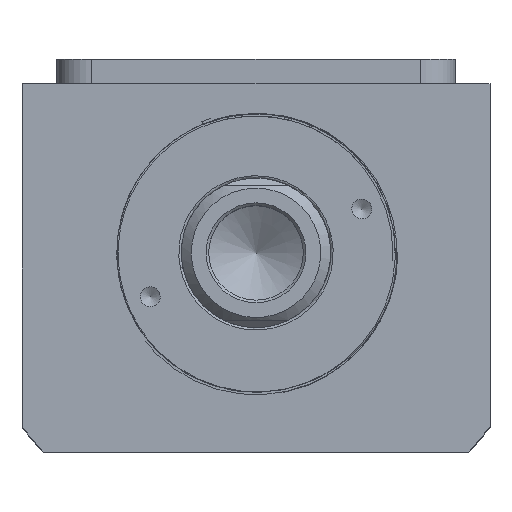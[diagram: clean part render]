
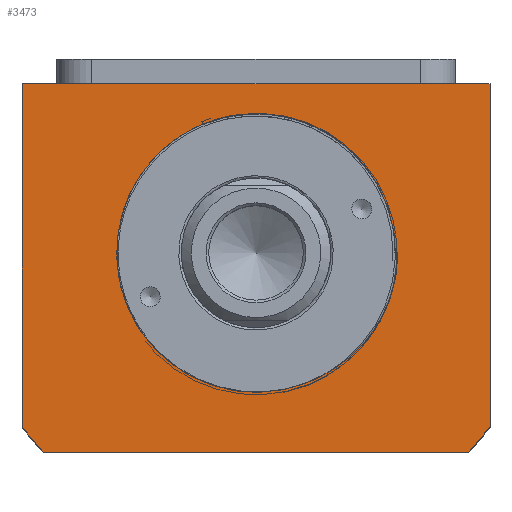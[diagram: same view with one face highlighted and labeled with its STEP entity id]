
A CAD part, top view. The second image highlights one B-rep face of the part: STEP entity #3473.
In plain terms, the highlighted planar face has unit normal (0, 0, 1).
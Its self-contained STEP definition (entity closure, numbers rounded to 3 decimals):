
#3156=B_SPLINE_CURVE_WITH_KNOTS('',3,(#15020,#15021,#15022,#15023,#15024,
#15025,#15026,#15027,#15028,#15029),.UNSPECIFIED.,.F.,.F.,(4,2,2,2,4),(0.,
0.25,0.5,0.75,1.),.UNSPECIFIED.);
#3473=ADVANCED_FACE('',(#4284,#4285),#3934,.T.);
#3934=PLANE('',#11863);
#4284=FACE_BOUND('',#4485,.T.);
#4285=FACE_BOUND('',#4486,.T.);
#4485=EDGE_LOOP('',(#7141,#7142,#7143));
#4486=EDGE_LOOP('',(#7144,#7145,#7146,#7147,#7148,#7149));
#5031=LINE('',#14306,#5953);
#5066=LINE('',#14964,#5988);
#5083=LINE('',#15002,#6005);
#5089=LINE('',#15012,#6011);
#5090=LINE('',#15017,#6012);
#5953=VECTOR('',#12300,1.);
#5988=VECTOR('',#12455,1.);
#6005=VECTOR('',#12488,1.);
#6011=VECTOR('',#12496,1.);
#6012=VECTOR('',#12505,1.);
#7141=ORIENTED_EDGE('',*,*,#10560,.F.);
#7142=ORIENTED_EDGE('',*,*,#10561,.T.);
#7143=ORIENTED_EDGE('',*,*,#10562,.T.);
#7144=ORIENTED_EDGE('',*,*,#10557,.T.);
#7145=ORIENTED_EDGE('',*,*,#10418,.T.);
#7146=ORIENTED_EDGE('',*,*,#10559,.T.);
#7147=ORIENTED_EDGE('',*,*,#10529,.T.);
#7148=ORIENTED_EDGE('',*,*,#10541,.T.);
#7149=ORIENTED_EDGE('',*,*,#10551,.T.);
#9524=VERTEX_POINT('',#14305);
#9525=VERTEX_POINT('',#14307);
#9627=VERTEX_POINT('',#14963);
#9628=VERTEX_POINT('',#14965);
#9634=VERTEX_POINT('',#14983);
#9640=VERTEX_POINT('',#15001);
#9644=VERTEX_POINT('',#15018);
#9645=VERTEX_POINT('',#15019);
#9646=VERTEX_POINT('',#15030);
#10418=EDGE_CURVE('',#9525,#9524,#5031,.T.);
#10529=EDGE_CURVE('',#9628,#9627,#5066,.T.);
#10541=EDGE_CURVE('',#9627,#9634,#11723,.T.);
#10551=EDGE_CURVE('',#9634,#9640,#5083,.T.);
#10557=EDGE_CURVE('',#9640,#9525,#5089,.T.);
#10559=EDGE_CURVE('',#9524,#9628,#11727,.T.);
#10560=EDGE_CURVE('',#9644,#9645,#5090,.T.);
#10561=EDGE_CURVE('',#9644,#9646,#3156,.T.);
#10562=EDGE_CURVE('',#9646,#9645,#11728,.T.);
#11723=CIRCLE('',#11852,58.5);
#11727=CIRCLE('',#11860,58.5);
#11728=CIRCLE('',#11862,28.);
#11852=AXIS2_PLACEMENT_3D('',#14984,#12471,#12472);
#11860=AXIS2_PLACEMENT_3D('',#15015,#12501,#12502);
#11862=AXIS2_PLACEMENT_3D('',#15031,#12506,#12507);
#11863=AXIS2_PLACEMENT_3D('',#15032,#12508,#12509);
#12300=DIRECTION('',(0.,-1.,0.));
#12455=DIRECTION('',(1.,0.,0.));
#12471=DIRECTION('',(0.,0.,1.));
#12472=DIRECTION('',(1.,0.,0.));
#12488=DIRECTION('',(0.,1.,0.));
#12496=DIRECTION('',(-1.,0.,0.));
#12501=DIRECTION('',(0.,0.,1.));
#12502=DIRECTION('',(1.,0.,0.));
#12505=DIRECTION('',(-1.,0.,0.));
#12506=DIRECTION('',(0.,0.,-1.));
#12507=DIRECTION('',(1.,0.,0.));
#12508=DIRECTION('',(0.,0.,1.));
#12509=DIRECTION('',(-1.,0.,0.));
#14305=CARTESIAN_POINT('',(-32.172,-34.044,49.643));
#14306=CARTESIAN_POINT('',(-32.172,-34.044,49.643));
#14307=CARTESIAN_POINT('',(-32.172,34.788,49.643));
#14963=CARTESIAN_POINT('',(57.516,-39.212,49.643));
#14964=CARTESIAN_POINT('',(57.516,-39.212,49.643));
#14965=CARTESIAN_POINT('',(-27.859,-39.212,49.643));
#14983=CARTESIAN_POINT('',(61.828,-34.044,49.643));
#14984=CARTESIAN_POINT('',(14.828,0.788,49.643));
#15001=CARTESIAN_POINT('',(61.828,34.788,49.643));
#15002=CARTESIAN_POINT('',(61.828,34.788,49.643));
#15012=CARTESIAN_POINT('',(-32.172,34.788,49.643));
#15015=CARTESIAN_POINT('',(14.828,0.788,49.643));
#15017=CARTESIAN_POINT('',(14.828,0.788,49.643));
#15018=CARTESIAN_POINT('',(43.323,0.788,49.643));
#15019=CARTESIAN_POINT('',(42.828,0.788,49.643));
#15020=CARTESIAN_POINT('',(43.323,0.788,49.643));
#15021=CARTESIAN_POINT('',(43.284,-2.053,49.643));
#15022=CARTESIAN_POINT('',(42.815,-4.868,49.643));
#15023=CARTESIAN_POINT('',(41.092,-10.199,49.643));
#15024=CARTESIAN_POINT('',(39.812,-12.773,49.643));
#15025=CARTESIAN_POINT('',(36.6,-17.362,49.643));
#15026=CARTESIAN_POINT('',(34.623,-19.446,49.643));
#15027=CARTESIAN_POINT('',(30.195,-22.888,49.643));
#15028=CARTESIAN_POINT('',(27.72,-24.278,49.643));
#15029=CARTESIAN_POINT('',(25.06,-25.276,49.643));
#15030=CARTESIAN_POINT('',(25.06,-25.276,49.643));
#15031=CARTESIAN_POINT('',(14.828,0.788,49.643));
#15032=CARTESIAN_POINT('',(14.828,0.788,49.643));
